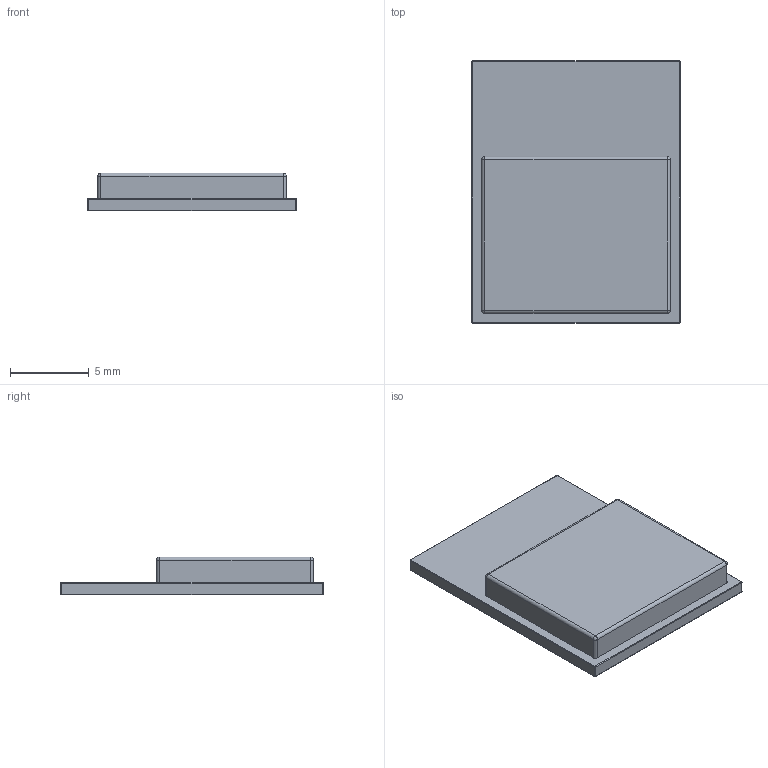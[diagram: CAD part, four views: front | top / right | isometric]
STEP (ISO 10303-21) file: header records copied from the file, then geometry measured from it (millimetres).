
FILE_DESCRIPTION(('FreeCAD Model'),'2;1');
FILE_NAME('Open CASCADE Shape Model','2022-10-03T17:08:51',( 'kicad StepUp'),('ksu MCAD'),'Open CASCADE STEP processor 7.5', 'FreeCAD','Unknown');
FILE_SCHEMA(('AUTOMOTIVE_DESIGN { 1 0 10303 214 1 1 1 1 }'));
Length unit declared in the file: millimetre
Products named in the file (1): Fusion
Bounding box: 13.2 x 16.6 x 2.4 mm (x, y, z)
Volume: 365 mm3; surface area: 549.1 mm2
Topology: 1 solids, 1 shells, 43 faces, 96 edges, 44 vertices
Faces by surface type: cylinder 20, sphere 12, plane 11
Entity records: 2431 total; most frequent: CARTESIAN_POINT 396, DIRECTION 324, ORIENTED_EDGE 168, PCURVE 168, DEFINITIONAL_REPRESENTATION 168, LINE 152, VECTOR 152, AXIS2_PLACEMENT_3D 84
